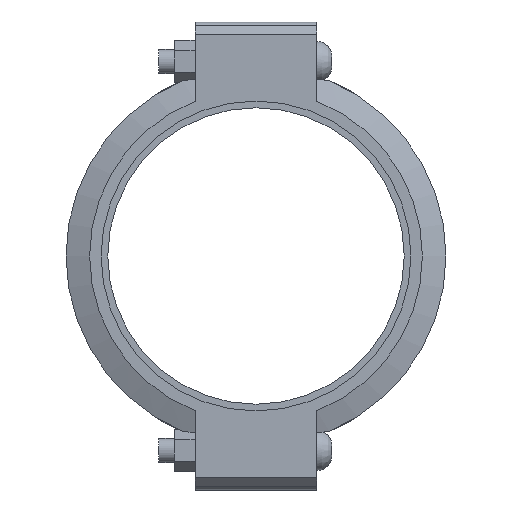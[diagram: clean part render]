
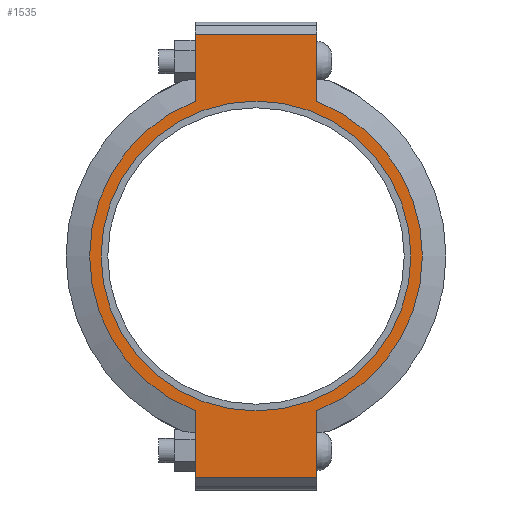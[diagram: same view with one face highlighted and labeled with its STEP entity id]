
A CAD part, left-side view. The second image highlights one B-rep face of the part: STEP entity #1535.
In plain terms, the highlighted planar face has unit normal (-1, 0, 0) as drawn and (0, 0, 1) by its records, which use the part's own axes.
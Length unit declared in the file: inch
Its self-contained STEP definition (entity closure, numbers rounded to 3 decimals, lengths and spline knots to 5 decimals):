
#162=LINE('',#2635,#249);
#173=LINE('',#2686,#260);
#179=LINE('',#2712,#266);
#181=LINE('',#2715,#268);
#182=LINE('',#2720,#269);
#183=LINE('',#2721,#270);
#249=VECTOR('',#2133,0.3937);
#260=VECTOR('',#2164,0.3937);
#266=VECTOR('',#2182,0.3937);
#268=VECTOR('',#2186,0.3937);
#269=VECTOR('',#2191,0.3937);
#270=VECTOR('',#2192,0.3937);
#328=FACE_BOUND('',#487,.T.);
#388=FACE_OUTER_BOUND('',#486,.T.);
#486=EDGE_LOOP('',(#1224,#1225,#1226,#1227,#1228,#1229,#1230,#1231));
#487=EDGE_LOOP('',(#1232));
#592=CIRCLE('',#1798,6.84375);
#593=CIRCLE('',#1799,6.84375);
#594=CIRCLE('',#1800,6.375);
#701=VERTEX_POINT('',#2632);
#702=VERTEX_POINT('',#2634);
#719=VERTEX_POINT('',#2681);
#720=VERTEX_POINT('',#2685);
#727=VERTEX_POINT('',#2707);
#728=VERTEX_POINT('',#2711);
#729=VERTEX_POINT('',#2717);
#730=VERTEX_POINT('',#2719);
#731=VERTEX_POINT('',#2723);
#871=EDGE_CURVE('',#702,#701,#162,.T.);
#892=EDGE_CURVE('',#720,#719,#173,.T.);
#903=EDGE_CURVE('',#728,#727,#179,.T.);
#905=EDGE_CURVE('',#728,#701,#181,.T.);
#906=EDGE_CURVE('',#727,#729,#592,.T.);
#907=EDGE_CURVE('',#729,#730,#182,.T.);
#908=EDGE_CURVE('',#720,#730,#183,.T.);
#909=EDGE_CURVE('',#719,#702,#593,.T.);
#910=EDGE_CURVE('',#731,#731,#594,.T.);
#1224=ORIENTED_EDGE('',*,*,#905,.F.);
#1225=ORIENTED_EDGE('',*,*,#903,.T.);
#1226=ORIENTED_EDGE('',*,*,#906,.T.);
#1227=ORIENTED_EDGE('',*,*,#907,.T.);
#1228=ORIENTED_EDGE('',*,*,#908,.F.);
#1229=ORIENTED_EDGE('',*,*,#892,.T.);
#1230=ORIENTED_EDGE('',*,*,#909,.T.);
#1231=ORIENTED_EDGE('',*,*,#871,.T.);
#1232=ORIENTED_EDGE('',*,*,#910,.T.);
#1387=PLANE('',#1797);
#1535=ADVANCED_FACE('',(#388,#328),#1387,.T.);
#1797=AXIS2_PLACEMENT_3D('',#2716,#2187,#2188);
#1798=AXIS2_PLACEMENT_3D('',#2718,#2189,#2190);
#1799=AXIS2_PLACEMENT_3D('',#2722,#2193,#2194);
#1800=AXIS2_PLACEMENT_3D('',#2724,#2195,#2196);
#2133=DIRECTION('',(1.,0.,0.));
#2164=DIRECTION('',(1.,0.,0.));
#2182=DIRECTION('',(-1.,0.,0.));
#2186=DIRECTION('',(0.,-1.,0.));
#2187=DIRECTION('center_axis',(0.,0.,1.));
#2188=DIRECTION('ref_axis',(-1.,0.,0.));
#2189=DIRECTION('center_axis',(0.,0.,1.));
#2190=DIRECTION('ref_axis',(1.,0.,0.));
#2191=DIRECTION('',(-1.,0.,0.));
#2192=DIRECTION('',(0.,1.,0.));
#2193=DIRECTION('center_axis',(0.,0.,1.));
#2194=DIRECTION('ref_axis',(1.,0.,0.));
#2195=DIRECTION('center_axis',(0.,0.,-1.));
#2196=DIRECTION('ref_axis',(1.,0.,0.));
#2632=CARTESIAN_POINT('',(9.125,-2.5,1.315));
#2634=CARTESIAN_POINT('',(6.37079,-2.5,1.315));
#2635=CARTESIAN_POINT('',(-9.625,-2.5,1.315));
#2681=CARTESIAN_POINT('',(-6.37079,-2.5,1.315));
#2685=CARTESIAN_POINT('',(-9.125,-2.5,1.315));
#2686=CARTESIAN_POINT('',(-9.625,-2.5,1.315));
#2707=CARTESIAN_POINT('',(6.37079,2.5,1.315));
#2711=CARTESIAN_POINT('',(9.125,2.5,1.315));
#2712=CARTESIAN_POINT('',(9.625,2.5,1.315));
#2715=CARTESIAN_POINT('',(9.125,-1.25,1.315));
#2716=CARTESIAN_POINT('Origin',(0.,0.,
1.315));
#2717=CARTESIAN_POINT('',(-6.37079,2.5,1.315));
#2718=CARTESIAN_POINT('Origin',(0.,0.,1.315));
#2719=CARTESIAN_POINT('',(-9.125,2.5,1.315));
#2720=CARTESIAN_POINT('',(9.625,2.5,1.315));
#2721=CARTESIAN_POINT('',(-9.125,1.25,1.315));
#2722=CARTESIAN_POINT('Origin',(0.,0.,1.315));
#2723=CARTESIAN_POINT('',(-6.375,0.,1.315));
#2724=CARTESIAN_POINT('Origin',(0.,0.,1.315));
